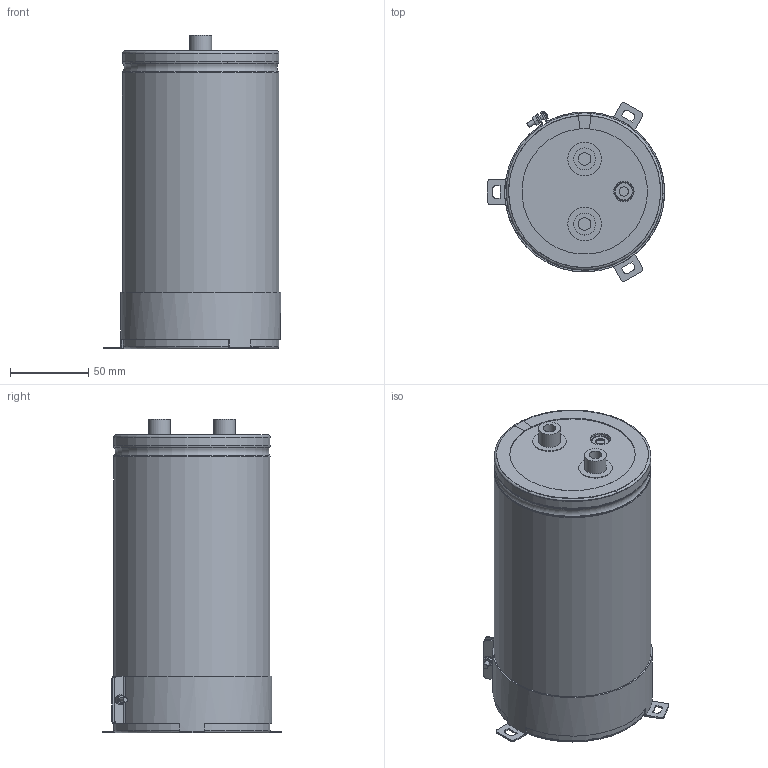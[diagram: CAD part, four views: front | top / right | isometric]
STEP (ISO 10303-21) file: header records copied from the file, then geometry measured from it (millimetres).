
FILE_DESCRIPTION(/* description */ (''),/* implementation_level */ '2;1');
FILE_NAME(/* name */ '100x190_Screw.stp',/* time_stamp */ '2017-09-06T16:56:31+09:00',/* author */ (''),/* organization */ (''),/* preprocessor_version */ 'ST-DEVELOPER v16',/* originating_system */ 'SIEMENS PLM Software NX 11.0',/* authorisation */ '');
FILE_SCHEMA (('AUTOMOTIVE_DESIGN { 1 0 10303 214 3 1 1 1 }'));
Length unit declared in the file: millimetre
Products named in the file (1): 100x190_Screw
Bounding box: 112.99 x 113.92 x 200 mm (x, y, z)
Volume: 1496858.2 mm3; surface area: 228260.4 mm2
Topology: 9 solids, 9 shells, 257 faces, 639 edges, 411 vertices
Faces by surface type: plane 111, cylinder 65, torus 49, cone 31, sphere 1
Full cylindrical faces by diameter (mm): 3 x5, 5.5 x2, 6 x4, 8 x2, 13 x2, 14 x2, 21.5 x2, 98.8 x2
Entity records: 8394 total; most frequent: CARTESIAN_POINT 2076, DIRECTION 1288, ORIENTED_EDGE 1210, EDGE_CURVE 605, AXIS2_PLACEMENT_3D 537, VERTEX_POINT 406, EDGE_LOOP 313, CIRCLE 279
